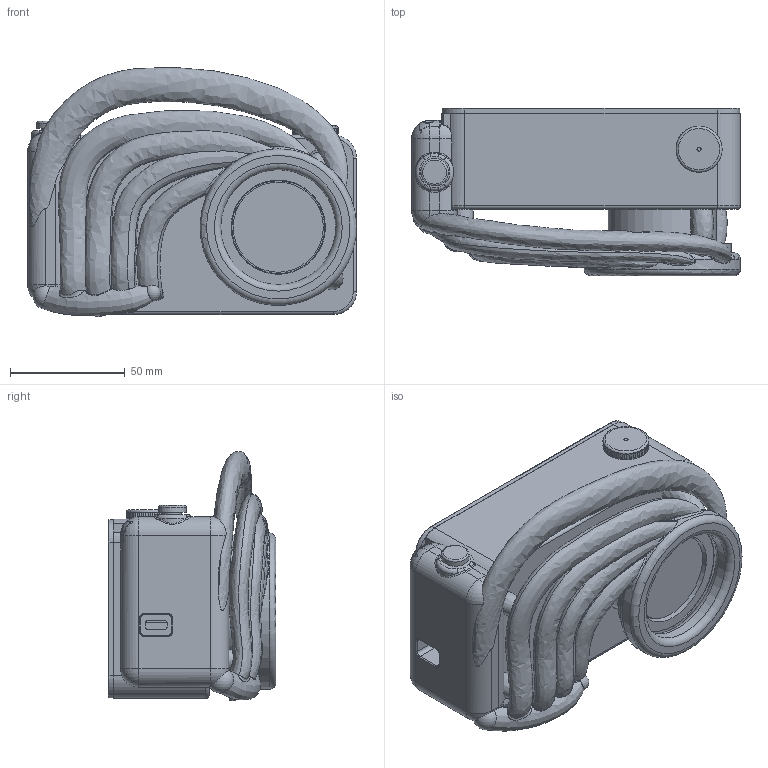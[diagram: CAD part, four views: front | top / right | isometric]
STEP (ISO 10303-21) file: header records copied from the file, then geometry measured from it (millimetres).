
FILE_DESCRIPTION(('Open CASCADE Model'),'2;1');
FILE_NAME('Open CASCADE Shape Model','2026-10-20T16:54:15',('Author'),( 'Open CASCADE'),'Open CASCADE STEP processor 7.8','Open CASCADE 7.8' ,'Unknown');
FILE_SCHEMA(('AUTOMOTIVE_DESIGN { 1 0 10303 214 1 1 1 1 }'));
Length unit declared in the file: millimetre
Products named in the file (19): Entropi_CAD_v05; 01_rib_cage; 02_chassis; 03_rear_cover; 04_esp32_carrier; 05_board_clamp; 06_optical_baffle; 07_shutter; 08_shutter_pin; 09_rear_dial; 10_io_plate; 12_lens_blank; 13_lens_blank_retainer; 14_dial_retainer; 15_shutter_return_flexure; 17_camera_saddle; 18_camera_clamp; 19_usb_retainer; 20_shutter_service_cover
Assembly tree (18 placements, depth 2):
  Entropi_CAD_v05
    01_rib_cage
    02_chassis
    03_rear_cover
    04_esp32_carrier
    05_board_clamp
    06_optical_baffle
    07_shutter
    08_shutter_pin
    09_rear_dial
    10_io_plate
    12_lens_blank
    13_lens_blank_retainer
    14_dial_retainer
    15_shutter_return_flexure
    17_camera_saddle
    18_camera_clamp
    19_usb_retainer
    20_shutter_service_cover
Bounding box: 143 x 72.9 x 108.31 mm (x, y, z)
Volume: 234864.1 mm3; surface area: 142169.9 mm2
Topology: 18 solids, 18 shells, 841 faces, 2129 edges, 1324 vertices
Faces by surface type: plane 422, cylinder 266, bspline 93, sphere 34, torus 24, extrusion 2
Full cylindrical faces by diameter (mm): 1.8 x28, 2.1 x1, 2.4 x25, 4.2 x1, 4.4 x2, 4.6 x2, 5 x4, 6 x1, 6.6 x1, 7.2 x2, 7.8 x1, 8.4 x1, 9 x7, 12 x1, 14.6 x1, 15 x1, 17 x1, 20 x1, 39.2 x1, 40.4 x1, 41 x1, 47 x1, 47.6 x1, 50 x2
Entity records: 99642 total; most frequent: CARTESIAN_POINT 58921, DIRECTION 7061, ORIENTED_EDGE 4186, PCURVE 4186, DEFINITIONAL_REPRESENTATION 4186, VECTOR 3658, LINE 3656, EDGE_CURVE 2093
